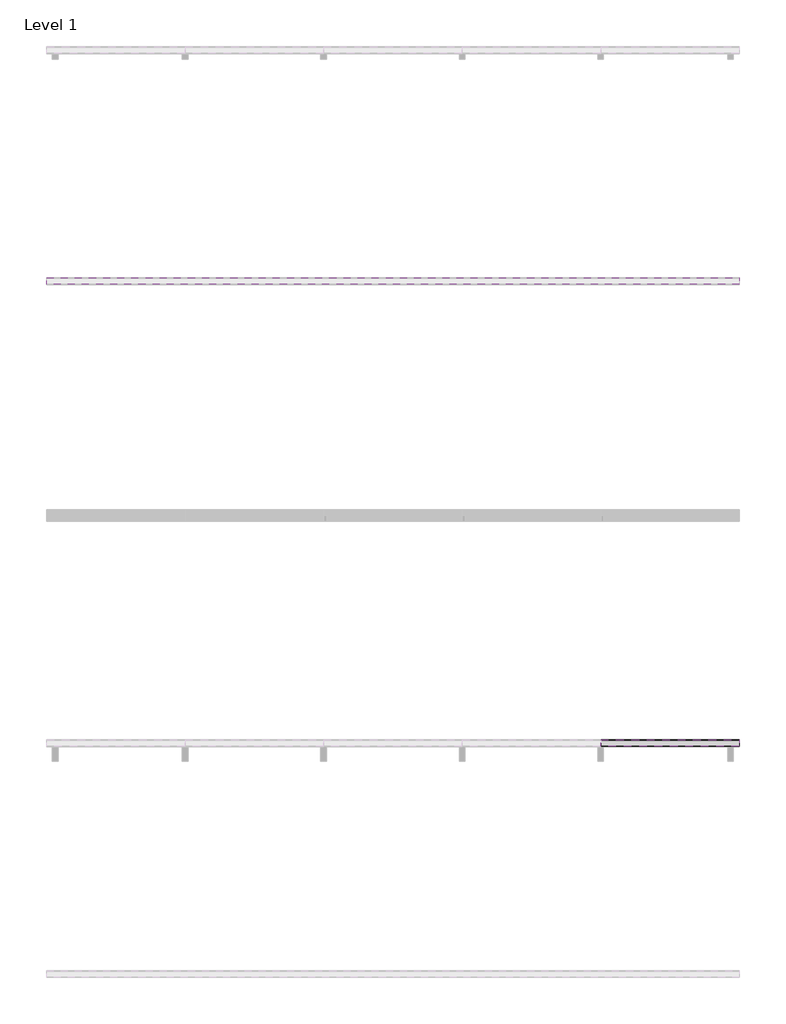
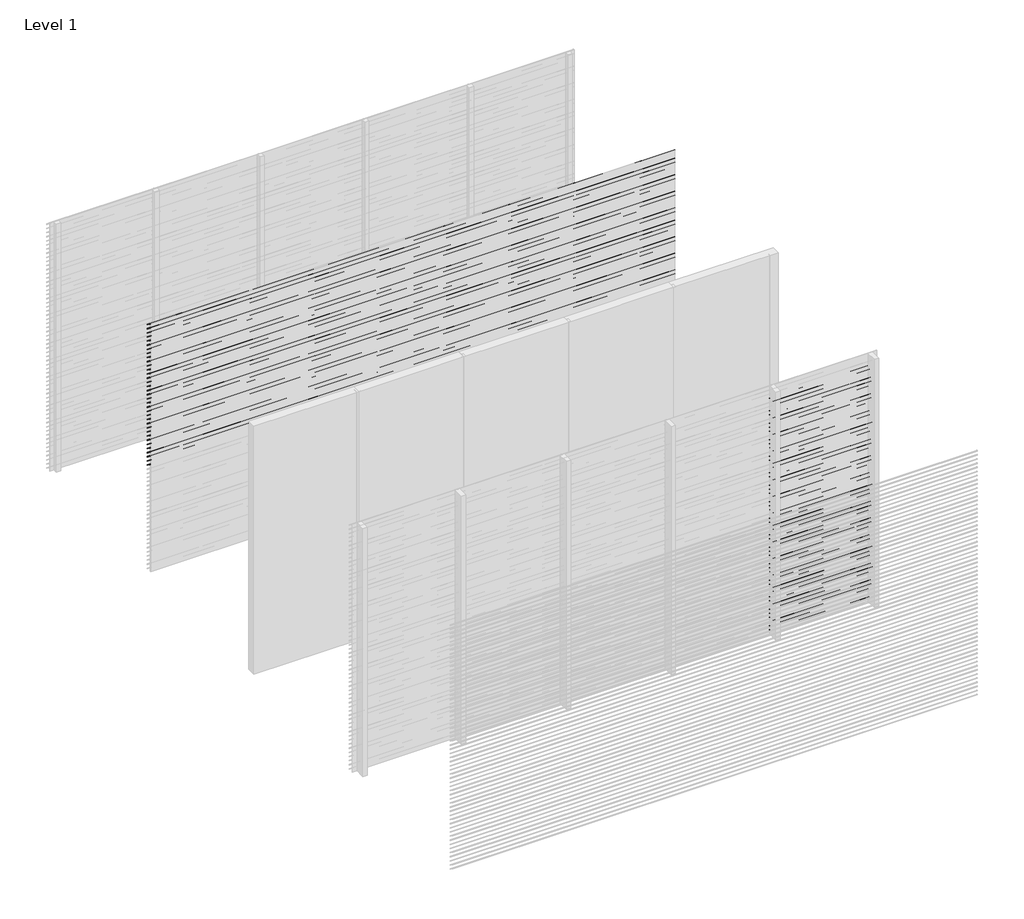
# One storey, part 5 of 16: 92 proxies.
"""IFC4 building model written with IfcOpenShell, lengths in millimetres."""

from ifc_helpers import new_model, si_unit, frame, origin, place, context, project, spatial, polyline, outline, extrude, element, save

model = new_model("IFC4")

# Units and contexts
model_context = context("Model", 3, world=origin())
ifc_project = project(units=[si_unit("LENGTHUNIT", "METRE", prefix="MILLI")], contexts=[model_context])

# Site, building, storey
site = spatial("IfcSite", under=ifc_project)
building = spatial("IfcBuilding", under=site)
storey = spatial("IfcBuildingStorey", under=building, Name="Level 1", Elevation=0.0)

# Proxies
placement = place(None, origin())
element("IfcBuildingElementProxy", 1, Name="Wall Sweeps", at=placement, inside=storey, context=model_context, shape_type="SweptSolid", body=[
    extrude(outline(polyline([(-13995.0, 3000.0), (-13995.0, 2998.0), (-13939.0, 2954.0), (-13939.0, 2946.0), (-13997.0, 2991.5714286), (-13997.0, 3000.0), (-13995.0, 3000.0)])), frame((0.0, 0.0, 0.0), z_axis=(1.0, 0.0, 0.0), x_axis=(0.0, 1.0, 0.0)), (0.0, 0.0, 1.0), 6000.0),
])
element("IfcBuildingElementProxy", 2, Name="Wall Sweeps", at=placement, inside=storey, context=model_context, shape_type="SweptSolid", body=[
    extrude(outline(polyline([(-13995.0, 2950.0), (-13995.0, 2948.0), (-13939.0, 2904.0), (-13939.0, 2896.0), (-13997.0, 2941.5714286), (-13997.0, 2950.0), (-13995.0, 2950.0)])), frame((0.0, 0.0, 0.0), z_axis=(1.0, 0.0, 0.0), x_axis=(0.0, 1.0, 0.0)), (0.0, 0.0, 1.0), 6000.0),
])
element("IfcBuildingElementProxy", 3, Name="Wall Sweeps", at=placement, inside=storey, context=model_context, shape_type="SweptSolid", body=[
    extrude(outline(polyline([(-13995.0, 2900.0), (-13995.0, 2898.0), (-13939.0, 2854.0), (-13939.0, 2846.0), (-13997.0, 2891.5714286), (-13997.0, 2900.0), (-13995.0, 2900.0)])), frame((0.0, 0.0, 0.0), z_axis=(1.0, 0.0, 0.0), x_axis=(0.0, 1.0, 0.0)), (0.0, 0.0, 1.0), 6000.0),
])
element("IfcBuildingElementProxy", 4, Name="Wall Sweeps", at=placement, inside=storey, context=model_context, shape_type="SweptSolid", body=[
    extrude(outline(polyline([(-13995.0, 2850.0), (-13995.0, 2848.0), (-13939.0, 2804.0), (-13939.0, 2796.0), (-13997.0, 2841.5714286), (-13997.0, 2850.0), (-13995.0, 2850.0)])), frame((0.0, 0.0, 0.0), z_axis=(1.0, 0.0, 0.0), x_axis=(0.0, 1.0, 0.0)), (0.0, 0.0, 1.0), 6000.0),
])
element("IfcBuildingElementProxy", 5, Name="Wall Sweeps", at=placement, inside=storey, context=model_context, shape_type="SweptSolid", body=[
    extrude(outline(polyline([(-13995.0, 2800.0), (-13995.0, 2798.0), (-13939.0, 2754.0), (-13939.0, 2746.0), (-13997.0, 2791.5714286), (-13997.0, 2800.0), (-13995.0, 2800.0)])), frame((0.0, 0.0, 0.0), z_axis=(1.0, 0.0, 0.0), x_axis=(0.0, 1.0, 0.0)), (0.0, 0.0, 1.0), 6000.0),
])
element("IfcBuildingElementProxy", 6, Name="Wall Sweeps", at=placement, inside=storey, context=model_context, shape_type="SweptSolid", body=[
    extrude(outline(polyline([(-13995.0, 2750.0), (-13995.0, 2748.0), (-13939.0, 2704.0), (-13939.0, 2696.0), (-13997.0, 2741.5714286), (-13997.0, 2750.0), (-13995.0, 2750.0)])), frame((0.0, 0.0, 0.0), z_axis=(1.0, 0.0, 0.0), x_axis=(0.0, 1.0, 0.0)), (0.0, 0.0, 1.0), 6000.0),
])
element("IfcBuildingElementProxy", 7, Name="Wall Sweeps", at=placement, inside=storey, context=model_context, shape_type="SweptSolid", body=[
    extrude(outline(polyline([(-13995.0, 2700.0), (-13995.0, 2698.0), (-13939.0, 2654.0), (-13939.0, 2646.0), (-13997.0, 2691.5714286), (-13997.0, 2700.0), (-13995.0, 2700.0)])), frame((0.0, 0.0, 0.0), z_axis=(1.0, 0.0, 0.0), x_axis=(0.0, 1.0, 0.0)), (0.0, 0.0, 1.0), 6000.0),
])
element("IfcBuildingElementProxy", 8, Name="Wall Sweeps", at=placement, inside=storey, context=model_context, shape_type="SweptSolid", body=[
    extrude(outline(polyline([(-13995.0, 2650.0), (-13995.0, 2648.0), (-13939.0, 2604.0), (-13939.0, 2596.0), (-13997.0, 2641.5714286), (-13997.0, 2650.0), (-13995.0, 2650.0)])), frame((0.0, 0.0, 0.0), z_axis=(1.0, 0.0, 0.0), x_axis=(0.0, 1.0, 0.0)), (0.0, 0.0, 1.0), 6000.0),
])
element("IfcBuildingElementProxy", 9, Name="Wall Sweeps", at=placement, inside=storey, context=model_context, shape_type="SweptSolid", body=[
    extrude(outline(polyline([(-13995.0, 2600.0), (-13995.0, 2598.0), (-13939.0, 2554.0), (-13939.0, 2546.0), (-13997.0, 2591.5714286), (-13997.0, 2600.0), (-13995.0, 2600.0)])), frame((0.0, 0.0, 0.0), z_axis=(1.0, 0.0, 0.0), x_axis=(0.0, 1.0, 0.0)), (0.0, 0.0, 1.0), 6000.0),
])
element("IfcBuildingElementProxy", 10, Name="Wall Sweeps", at=placement, inside=storey, context=model_context, shape_type="SweptSolid", body=[
    extrude(outline(polyline([(-13995.0, 2550.0), (-13995.0, 2548.0), (-13939.0, 2504.0), (-13939.0, 2496.0), (-13997.0, 2541.5714286), (-13997.0, 2550.0), (-13995.0, 2550.0)])), frame((0.0, 0.0, 0.0), z_axis=(1.0, 0.0, 0.0), x_axis=(0.0, 1.0, 0.0)), (0.0, 0.0, 1.0), 6000.0),
])
element("IfcBuildingElementProxy", 11, Name="Wall Sweeps", at=placement, inside=storey, context=model_context, shape_type="SweptSolid", body=[
    extrude(outline(polyline([(-13995.0, 2500.0), (-13995.0, 2498.0), (-13939.0, 2454.0), (-13939.0, 2446.0), (-13997.0, 2491.5714286), (-13997.0, 2500.0), (-13995.0, 2500.0)])), frame((0.0, 0.0, 0.0), z_axis=(1.0, 0.0, 0.0), x_axis=(0.0, 1.0, 0.0)), (0.0, 0.0, 1.0), 6000.0),
])
element("IfcBuildingElementProxy", 12, Name="Wall Sweeps", at=placement, inside=storey, context=model_context, shape_type="SweptSolid", body=[
    extrude(outline(polyline([(-13995.0, 2450.0), (-13995.0, 2448.0), (-13939.0, 2404.0), (-13939.0, 2396.0), (-13997.0, 2441.5714286), (-13997.0, 2450.0), (-13995.0, 2450.0)])), frame((0.0, 0.0, 0.0), z_axis=(1.0, 0.0, 0.0), x_axis=(0.0, 1.0, 0.0)), (0.0, 0.0, 1.0), 6000.0),
])
element("IfcBuildingElementProxy", 13, Name="Wall Sweeps", at=placement, inside=storey, context=model_context, shape_type="SweptSolid", body=[
    extrude(outline(polyline([(-13995.0, 2400.0), (-13995.0, 2398.0), (-13939.0, 2354.0), (-13939.0, 2346.0), (-13997.0, 2391.5714286), (-13997.0, 2400.0), (-13995.0, 2400.0)])), frame((0.0, 0.0, 0.0), z_axis=(1.0, 0.0, 0.0), x_axis=(0.0, 1.0, 0.0)), (0.0, 0.0, 1.0), 6000.0),
])
element("IfcBuildingElementProxy", 14, Name="Wall Sweeps", at=placement, inside=storey, context=model_context, shape_type="SweptSolid", body=[
    extrude(outline(polyline([(-13995.0, 2350.0), (-13995.0, 2348.0), (-13939.0, 2304.0), (-13939.0, 2296.0), (-13997.0, 2341.5714286), (-13997.0, 2350.0), (-13995.0, 2350.0)])), frame((0.0, 0.0, 0.0), z_axis=(1.0, 0.0, 0.0), x_axis=(0.0, 1.0, 0.0)), (0.0, 0.0, 1.0), 6000.0),
])
element("IfcBuildingElementProxy", 15, Name="Wall Sweeps", at=placement, inside=storey, context=model_context, shape_type="SweptSolid", body=[
    extrude(outline(polyline([(-13995.0, 2300.0), (-13995.0, 2298.0), (-13939.0, 2254.0), (-13939.0, 2246.0), (-13997.0, 2291.5714286), (-13997.0, 2300.0), (-13995.0, 2300.0)])), frame((0.0, 0.0, 0.0), z_axis=(1.0, 0.0, 0.0), x_axis=(0.0, 1.0, 0.0)), (0.0, 0.0, 1.0), 6000.0),
])
element("IfcBuildingElementProxy", 16, Name="Wall Sweeps", at=placement, inside=storey, context=model_context, shape_type="SweptSolid", body=[
    extrude(outline(polyline([(-13995.0, 2250.0), (-13995.0, 2248.0), (-13939.0, 2204.0), (-13939.0, 2196.0), (-13997.0, 2241.5714286), (-13997.0, 2250.0), (-13995.0, 2250.0)])), frame((0.0, 0.0, 0.0), z_axis=(1.0, 0.0, 0.0), x_axis=(0.0, 1.0, 0.0)), (0.0, 0.0, 1.0), 6000.0),
])
element("IfcBuildingElementProxy", 17, Name="Wall Sweeps", at=placement, inside=storey, context=model_context, shape_type="SweptSolid", body=[
    extrude(outline(polyline([(-13995.0, 2200.0), (-13995.0, 2198.0), (-13939.0, 2154.0), (-13939.0, 2146.0), (-13997.0, 2191.5714286), (-13997.0, 2200.0), (-13995.0, 2200.0)])), frame((0.0, 0.0, 0.0), z_axis=(1.0, 0.0, 0.0), x_axis=(0.0, 1.0, 0.0)), (0.0, 0.0, 1.0), 6000.0),
])
element("IfcBuildingElementProxy", 18, Name="Wall Sweeps", at=placement, inside=storey, context=model_context, shape_type="SweptSolid", body=[
    extrude(outline(polyline([(-13995.0, 2150.0), (-13995.0, 2148.0), (-13939.0, 2104.0), (-13939.0, 2096.0), (-13997.0, 2141.5714286), (-13997.0, 2150.0), (-13995.0, 2150.0)])), frame((0.0, 0.0, 0.0), z_axis=(1.0, 0.0, 0.0), x_axis=(0.0, 1.0, 0.0)), (0.0, 0.0, 1.0), 6000.0),
])
element("IfcBuildingElementProxy", 19, Name="Wall Sweeps", at=placement, inside=storey, context=model_context, shape_type="SweptSolid", body=[
    extrude(outline(polyline([(-13995.0, 2100.0), (-13995.0, 2098.0), (-13939.0, 2054.0), (-13939.0, 2046.0), (-13997.0, 2091.5714286), (-13997.0, 2100.0), (-13995.0, 2100.0)])), frame((0.0, 0.0, 0.0), z_axis=(1.0, 0.0, 0.0), x_axis=(0.0, 1.0, 0.0)), (0.0, 0.0, 1.0), 6000.0),
])
element("IfcBuildingElementProxy", 20, Name="Wall Sweeps", at=placement, inside=storey, context=model_context, shape_type="SweptSolid", body=[
    extrude(outline(polyline([(-13995.0, 2050.0), (-13995.0, 2048.0), (-13939.0, 2004.0), (-13939.0, 1996.0), (-13997.0, 2041.5714286), (-13997.0, 2050.0), (-13995.0, 2050.0)])), frame((0.0, 0.0, 0.0), z_axis=(1.0, 0.0, 0.0), x_axis=(0.0, 1.0, 0.0)), (0.0, 0.0, 1.0), 6000.0),
])
element("IfcBuildingElementProxy", 21, Name="Wall Sweeps", at=placement, inside=storey, context=model_context, shape_type="SweptSolid", body=[
    extrude(outline(polyline([(-13995.0, 2000.0), (-13995.0, 1998.0), (-13939.0, 1954.0), (-13939.0, 1946.0), (-13997.0, 1991.5714286), (-13997.0, 2000.0), (-13995.0, 2000.0)])), frame((0.0, 0.0, 0.0), z_axis=(1.0, 0.0, 0.0), x_axis=(0.0, 1.0, 0.0)), (0.0, 0.0, 1.0), 6000.0),
])
element("IfcBuildingElementProxy", 22, Name="Wall Sweeps", at=placement, inside=storey, context=model_context, shape_type="SweptSolid", body=[
    extrude(outline(polyline([(-13995.0, 1950.0), (-13995.0, 1948.0), (-13939.0, 1904.0), (-13939.0, 1896.0), (-13997.0, 1941.5714286), (-13997.0, 1950.0), (-13995.0, 1950.0)])), frame((0.0, 0.0, 0.0), z_axis=(1.0, 0.0, 0.0), x_axis=(0.0, 1.0, 0.0)), (0.0, 0.0, 1.0), 6000.0),
])
element("IfcBuildingElementProxy", 23, Name="Wall Sweeps", at=placement, inside=storey, context=model_context, shape_type="SweptSolid", body=[
    extrude(outline(polyline([(-13995.0, 1900.0), (-13995.0, 1898.0), (-13939.0, 1854.0), (-13939.0, 1846.0), (-13997.0, 1891.5714286), (-13997.0, 1900.0), (-13995.0, 1900.0)])), frame((0.0, 0.0, 0.0), z_axis=(1.0, 0.0, 0.0), x_axis=(0.0, 1.0, 0.0)), (0.0, 0.0, 1.0), 6000.0),
])
element("IfcBuildingElementProxy", 24, Name="Wall Sweeps", at=placement, inside=storey, context=model_context, shape_type="SweptSolid", body=[
    extrude(outline(polyline([(-13995.0, 1850.0), (-13995.0, 1848.0), (-13939.0, 1804.0), (-13939.0, 1796.0), (-13997.0, 1841.5714286), (-13997.0, 1850.0), (-13995.0, 1850.0)])), frame((0.0, 0.0, 0.0), z_axis=(1.0, 0.0, 0.0), x_axis=(0.0, 1.0, 0.0)), (0.0, 0.0, 1.0), 6000.0),
])
element("IfcBuildingElementProxy", 25, Name="Wall Sweeps", at=placement, inside=storey, context=model_context, shape_type="SweptSolid", body=[
    extrude(outline(polyline([(-13995.0, 1800.0), (-13995.0, 1798.0), (-13939.0, 1754.0), (-13939.0, 1746.0), (-13997.0, 1791.5714286), (-13997.0, 1800.0), (-13995.0, 1800.0)])), frame((0.0, 0.0, 0.0), z_axis=(1.0, 0.0, 0.0), x_axis=(0.0, 1.0, 0.0)), (0.0, 0.0, 1.0), 6000.0),
])
element("IfcBuildingElementProxy", 26, Name="Wall Sweeps", at=placement, inside=storey, context=model_context, shape_type="SweptSolid", body=[
    extrude(outline(polyline([(-13995.0, 1750.0), (-13995.0, 1748.0), (-13939.0, 1704.0), (-13939.0, 1696.0), (-13997.0, 1741.5714286), (-13997.0, 1750.0), (-13995.0, 1750.0)])), frame((0.0, 0.0, 0.0), z_axis=(1.0, 0.0, 0.0), x_axis=(0.0, 1.0, 0.0)), (0.0, 0.0, 1.0), 6000.0),
])
element("IfcBuildingElementProxy", 27, Name="Wall Sweeps", at=placement, inside=storey, context=model_context, shape_type="SweptSolid", body=[
    extrude(outline(polyline([(-13995.0, 1700.0), (-13995.0, 1698.0), (-13939.0, 1654.0), (-13939.0, 1646.0), (-13997.0, 1691.5714286), (-13997.0, 1700.0), (-13995.0, 1700.0)])), frame((0.0, 0.0, 0.0), z_axis=(1.0, 0.0, 0.0), x_axis=(0.0, 1.0, 0.0)), (0.0, 0.0, 1.0), 6000.0),
])
element("IfcBuildingElementProxy", 28, Name="Wall Sweeps", at=placement, inside=storey, context=model_context, shape_type="SweptSolid", body=[
    extrude(outline(polyline([(-13995.0, 1650.0), (-13995.0, 1648.0), (-13939.0, 1604.0), (-13939.0, 1596.0), (-13997.0, 1641.5714286), (-13997.0, 1650.0), (-13995.0, 1650.0)])), frame((0.0, 0.0, 0.0), z_axis=(1.0, 0.0, 0.0), x_axis=(0.0, 1.0, 0.0)), (0.0, 0.0, 1.0), 6000.0),
])
element("IfcBuildingElementProxy", 29, Name="Wall Sweeps", at=placement, inside=storey, context=model_context, shape_type="SweptSolid", body=[
    extrude(outline(polyline([(-13995.0, 1600.0), (-13995.0, 1598.0), (-13939.0, 1554.0), (-13939.0, 1546.0), (-13997.0, 1591.5714286), (-13997.0, 1600.0), (-13995.0, 1600.0)])), frame((0.0, 0.0, 0.0), z_axis=(1.0, 0.0, 0.0), x_axis=(0.0, 1.0, 0.0)), (0.0, 0.0, 1.0), 6000.0),
])
element("IfcBuildingElementProxy", 30, Name="Wall Sweeps", at=placement, inside=storey, context=model_context, shape_type="SweptSolid", body=[
    extrude(outline(polyline([(-13995.0, 1550.0), (-13995.0, 1548.0), (-13939.0, 1504.0), (-13939.0, 1496.0), (-13997.0, 1541.5714286), (-13997.0, 1550.0), (-13995.0, 1550.0)])), frame((0.0, 0.0, 0.0), z_axis=(1.0, 0.0, 0.0), x_axis=(0.0, 1.0, 0.0)), (0.0, 0.0, 1.0), 6000.0),
])
element("IfcBuildingElementProxy", 31, Name="Wall Sweeps", at=placement, inside=storey, context=model_context, shape_type="SweptSolid", body=[
    extrude(outline(polyline([(-13995.0, 1500.0), (-13995.0, 1498.0), (-13939.0, 1454.0), (-13939.0, 1446.0), (-13997.0, 1491.5714286), (-13997.0, 1500.0), (-13995.0, 1500.0)])), frame((0.0, 0.0, 0.0), z_axis=(1.0, 0.0, 0.0), x_axis=(0.0, 1.0, 0.0)), (0.0, 0.0, 1.0), 6000.0),
])
element("IfcBuildingElementProxy", 32, Name="Wall Sweeps", at=placement, inside=storey, context=model_context, shape_type="SweptSolid", body=[
    extrude(outline(polyline([(-13995.0, 1450.0), (-13995.0, 1448.0), (-13939.0, 1404.0), (-13939.0, 1396.0), (-13997.0, 1441.5714286), (-13997.0, 1450.0), (-13995.0, 1450.0)])), frame((0.0, 0.0, 0.0), z_axis=(1.0, 0.0, 0.0), x_axis=(0.0, 1.0, 0.0)), (0.0, 0.0, 1.0), 6000.0),
])
element("IfcBuildingElementProxy", 33, Name="Wall Sweeps", at=placement, inside=storey, context=model_context, shape_type="SweptSolid", body=[
    extrude(outline(polyline([(-13995.0, 1400.0), (-13995.0, 1398.0), (-13939.0, 1354.0), (-13939.0, 1346.0), (-13997.0, 1391.5714286), (-13997.0, 1400.0), (-13995.0, 1400.0)])), frame((0.0, 0.0, 0.0), z_axis=(1.0, 0.0, 0.0), x_axis=(0.0, 1.0, 0.0)), (0.0, 0.0, 1.0), 6000.0),
])
element("IfcBuildingElementProxy", 34, Name="Wall Sweeps", at=placement, inside=storey, context=model_context, shape_type="SweptSolid", body=[
    extrude(outline(polyline([(-13995.0, 1350.0), (-13995.0, 1348.0), (-13939.0, 1304.0), (-13939.0, 1296.0), (-13997.0, 1341.5714286), (-13997.0, 1350.0), (-13995.0, 1350.0)])), frame((0.0, 0.0, 0.0), z_axis=(1.0, 0.0, 0.0), x_axis=(0.0, 1.0, 0.0)), (0.0, 0.0, 1.0), 6000.0),
])
element("IfcBuildingElementProxy", 35, Name="Wall Sweeps", at=placement, inside=storey, context=model_context, shape_type="SweptSolid", body=[
    extrude(outline(polyline([(-13995.0, 1300.0), (-13995.0, 1298.0), (-13939.0, 1254.0), (-13939.0, 1246.0), (-13997.0, 1291.5714286), (-13997.0, 1300.0), (-13995.0, 1300.0)])), frame((0.0, 0.0, 0.0), z_axis=(1.0, 0.0, 0.0), x_axis=(0.0, 1.0, 0.0)), (0.0, 0.0, 1.0), 6000.0),
])
element("IfcBuildingElementProxy", 36, Name="Wall Sweeps", at=placement, inside=storey, context=model_context, shape_type="SweptSolid", body=[
    extrude(outline(polyline([(-17995.0, 2850.0), (-17995.0, 2848.0), (-17939.0, 2804.0), (-17939.0, 2796.0), (-17997.0, 2841.5714286), (-17997.0, 2850.0), (-17995.0, 2850.0)])), frame((4799.9999998, 0.0, 0.0), z_axis=(1.0, 0.0, 0.0), x_axis=(0.0, 1.0, 0.0)), (0.0, 0.0, 1.0), 1200.0000002),
])
element("IfcBuildingElementProxy", 37, Name="Wall Sweeps", at=placement, inside=storey, context=model_context, shape_type="SweptSolid", body=[
    extrude(outline(polyline([(-17995.0, 2800.0), (-17995.0, 2798.0), (-17939.0, 2754.0), (-17939.0, 2746.0), (-17997.0, 2791.5714286), (-17997.0, 2800.0), (-17995.0, 2800.0)])), frame((4799.9999998, 0.0, 0.0), z_axis=(1.0, 0.0, 0.0), x_axis=(0.0, 1.0, 0.0)), (0.0, 0.0, 1.0), 1200.0000002),
])
element("IfcBuildingElementProxy", 38, Name="Wall Sweeps", at=placement, inside=storey, context=model_context, shape_type="SweptSolid", body=[
    extrude(outline(polyline([(-17995.0, 2750.0), (-17995.0, 2748.0), (-17939.0, 2704.0), (-17939.0, 2696.0), (-17997.0, 2741.5714286), (-17997.0, 2750.0), (-17995.0, 2750.0)])), frame((4799.9999998, 0.0, 0.0), z_axis=(1.0, 0.0, 0.0), x_axis=(0.0, 1.0, 0.0)), (0.0, 0.0, 1.0), 1200.0000002),
])
element("IfcBuildingElementProxy", 39, Name="Wall Sweeps", at=placement, inside=storey, context=model_context, shape_type="SweptSolid", body=[
    extrude(outline(polyline([(-17995.0, 2700.0), (-17995.0, 2698.0), (-17939.0, 2654.0), (-17939.0, 2646.0), (-17997.0, 2691.5714286), (-17997.0, 2700.0), (-17995.0, 2700.0)])), frame((4799.9999998, 0.0, 0.0), z_axis=(1.0, 0.0, 0.0), x_axis=(0.0, 1.0, 0.0)), (0.0, 0.0, 1.0), 1200.0000002),
])
element("IfcBuildingElementProxy", 40, Name="Wall Sweeps", at=placement, inside=storey, context=model_context, shape_type="SweptSolid", body=[
    extrude(outline(polyline([(-17995.0, 2650.0), (-17995.0, 2648.0), (-17939.0, 2604.0), (-17939.0, 2596.0), (-17997.0, 2641.5714286), (-17997.0, 2650.0), (-17995.0, 2650.0)])), frame((4799.9999998, 0.0, 0.0), z_axis=(1.0, 0.0, 0.0), x_axis=(0.0, 1.0, 0.0)), (0.0, 0.0, 1.0), 1200.0000002),
])
element("IfcBuildingElementProxy", 41, Name="Wall Sweeps", at=placement, inside=storey, context=model_context, shape_type="SweptSolid", body=[
    extrude(outline(polyline([(-17995.0, 2600.0), (-17995.0, 2598.0), (-17939.0, 2554.0), (-17939.0, 2546.0), (-17997.0, 2591.5714286), (-17997.0, 2600.0), (-17995.0, 2600.0)])), frame((4799.9999998, 0.0, 0.0), z_axis=(1.0, 0.0, 0.0), x_axis=(0.0, 1.0, 0.0)), (0.0, 0.0, 1.0), 1200.0000002),
])
element("IfcBuildingElementProxy", 42, Name="Wall Sweeps", at=placement, inside=storey, context=model_context, shape_type="SweptSolid", body=[
    extrude(outline(polyline([(-17995.0, 2550.0), (-17995.0, 2548.0), (-17939.0, 2504.0), (-17939.0, 2496.0), (-17997.0, 2541.5714286), (-17997.0, 2550.0), (-17995.0, 2550.0)])), frame((4799.9999998, 0.0, 0.0), z_axis=(1.0, 0.0, 0.0), x_axis=(0.0, 1.0, 0.0)), (0.0, 0.0, 1.0), 1200.0000002),
])
element("IfcBuildingElementProxy", 43, Name="Wall Sweeps", at=placement, inside=storey, context=model_context, shape_type="SweptSolid", body=[
    extrude(outline(polyline([(-17995.0, 2500.0), (-17995.0, 2498.0), (-17939.0, 2454.0), (-17939.0, 2446.0), (-17997.0, 2491.5714286), (-17997.0, 2500.0), (-17995.0, 2500.0)])), frame((4799.9999998, 0.0, 0.0), z_axis=(1.0, 0.0, 0.0), x_axis=(0.0, 1.0, 0.0)), (0.0, 0.0, 1.0), 1200.0000002),
])
element("IfcBuildingElementProxy", 44, Name="Wall Sweeps", at=placement, inside=storey, context=model_context, shape_type="SweptSolid", body=[
    extrude(outline(polyline([(-17995.0, 2450.0), (-17995.0, 2448.0), (-17939.0, 2404.0), (-17939.0, 2396.0), (-17997.0, 2441.5714286), (-17997.0, 2450.0), (-17995.0, 2450.0)])), frame((4799.9999998, 0.0, 0.0), z_axis=(1.0, 0.0, 0.0), x_axis=(0.0, 1.0, 0.0)), (0.0, 0.0, 1.0), 1200.0000002),
])
element("IfcBuildingElementProxy", 45, Name="Wall Sweeps", at=placement, inside=storey, context=model_context, shape_type="SweptSolid", body=[
    extrude(outline(polyline([(-17995.0, 2400.0), (-17995.0, 2398.0), (-17939.0, 2354.0), (-17939.0, 2346.0), (-17997.0, 2391.5714286), (-17997.0, 2400.0), (-17995.0, 2400.0)])), frame((4799.9999998, 0.0, 0.0), z_axis=(1.0, 0.0, 0.0), x_axis=(0.0, 1.0, 0.0)), (0.0, 0.0, 1.0), 1200.0000002),
])
element("IfcBuildingElementProxy", 46, Name="Wall Sweeps", at=placement, inside=storey, context=model_context, shape_type="SweptSolid", body=[
    extrude(outline(polyline([(-17995.0, 2350.0), (-17995.0, 2348.0), (-17939.0, 2304.0), (-17939.0, 2296.0), (-17997.0, 2341.5714286), (-17997.0, 2350.0), (-17995.0, 2350.0)])), frame((4799.9999998, 0.0, 0.0), z_axis=(1.0, 0.0, 0.0), x_axis=(0.0, 1.0, 0.0)), (0.0, 0.0, 1.0), 1200.0000002),
])
element("IfcBuildingElementProxy", 47, Name="Wall Sweeps", at=placement, inside=storey, context=model_context, shape_type="SweptSolid", body=[
    extrude(outline(polyline([(-17995.0, 2300.0), (-17995.0, 2298.0), (-17939.0, 2254.0), (-17939.0, 2246.0), (-17997.0, 2291.5714286), (-17997.0, 2300.0), (-17995.0, 2300.0)])), frame((4799.9999998, 0.0, 0.0), z_axis=(1.0, 0.0, 0.0), x_axis=(0.0, 1.0, 0.0)), (0.0, 0.0, 1.0), 1200.0000002),
])
element("IfcBuildingElementProxy", 48, Name="Wall Sweeps", at=placement, inside=storey, context=model_context, shape_type="SweptSolid", body=[
    extrude(outline(polyline([(-17995.0, 2250.0), (-17995.0, 2248.0), (-17939.0, 2204.0), (-17939.0, 2196.0), (-17997.0, 2241.5714286), (-17997.0, 2250.0), (-17995.0, 2250.0)])), frame((4799.9999998, 0.0, 0.0), z_axis=(1.0, 0.0, 0.0), x_axis=(0.0, 1.0, 0.0)), (0.0, 0.0, 1.0), 1200.0000002),
])
element("IfcBuildingElementProxy", 49, Name="Wall Sweeps", at=placement, inside=storey, context=model_context, shape_type="SweptSolid", body=[
    extrude(outline(polyline([(-17995.0, 2200.0), (-17995.0, 2198.0), (-17939.0, 2154.0), (-17939.0, 2146.0), (-17997.0, 2191.5714286), (-17997.0, 2200.0), (-17995.0, 2200.0)])), frame((4799.9999998, 0.0, 0.0), z_axis=(1.0, 0.0, 0.0), x_axis=(0.0, 1.0, 0.0)), (0.0, 0.0, 1.0), 1200.0000002),
])
element("IfcBuildingElementProxy", 50, Name="Wall Sweeps", at=placement, inside=storey, context=model_context, shape_type="SweptSolid", body=[
    extrude(outline(polyline([(-17995.0, 2150.0), (-17995.0, 2148.0), (-17939.0, 2104.0), (-17939.0, 2096.0), (-17997.0, 2141.5714286), (-17997.0, 2150.0), (-17995.0, 2150.0)])), frame((4799.9999998, 0.0, 0.0), z_axis=(1.0, 0.0, 0.0), x_axis=(0.0, 1.0, 0.0)), (0.0, 0.0, 1.0), 1200.0000002),
])
element("IfcBuildingElementProxy", 51, Name="Wall Sweeps", at=placement, inside=storey, context=model_context, shape_type="SweptSolid", body=[
    extrude(outline(polyline([(-17995.0, 2100.0), (-17995.0, 2098.0), (-17939.0, 2054.0), (-17939.0, 2046.0), (-17997.0, 2091.5714286), (-17997.0, 2100.0), (-17995.0, 2100.0)])), frame((4799.9999998, 0.0, 0.0), z_axis=(1.0, 0.0, 0.0), x_axis=(0.0, 1.0, 0.0)), (0.0, 0.0, 1.0), 1200.0000002),
])
element("IfcBuildingElementProxy", 52, Name="Wall Sweeps", at=placement, inside=storey, context=model_context, shape_type="SweptSolid", body=[
    extrude(outline(polyline([(-17995.0, 2050.0), (-17995.0, 2048.0), (-17939.0, 2004.0), (-17939.0, 1996.0), (-17997.0, 2041.5714286), (-17997.0, 2050.0), (-17995.0, 2050.0)])), frame((4799.9999998, 0.0, 0.0), z_axis=(1.0, 0.0, 0.0), x_axis=(0.0, 1.0, 0.0)), (0.0, 0.0, 1.0), 1200.0000002),
])
element("IfcBuildingElementProxy", 53, Name="Wall Sweeps", at=placement, inside=storey, context=model_context, shape_type="SweptSolid", body=[
    extrude(outline(polyline([(-17995.0, 2000.0), (-17995.0, 1998.0), (-17939.0, 1954.0), (-17939.0, 1946.0), (-17997.0, 1991.5714286), (-17997.0, 2000.0), (-17995.0, 2000.0)])), frame((4799.9999998, 0.0, 0.0), z_axis=(1.0, 0.0, 0.0), x_axis=(0.0, 1.0, 0.0)), (0.0, 0.0, 1.0), 1200.0000002),
])
element("IfcBuildingElementProxy", 54, Name="Wall Sweeps", at=placement, inside=storey, context=model_context, shape_type="SweptSolid", body=[
    extrude(outline(polyline([(-17995.0, 1950.0), (-17995.0, 1948.0), (-17939.0, 1904.0), (-17939.0, 1896.0), (-17997.0, 1941.5714286), (-17997.0, 1950.0), (-17995.0, 1950.0)])), frame((4799.9999998, 0.0, 0.0), z_axis=(1.0, 0.0, 0.0), x_axis=(0.0, 1.0, 0.0)), (0.0, 0.0, 1.0), 1200.0000002),
])
element("IfcBuildingElementProxy", 55, Name="Wall Sweeps", at=placement, inside=storey, context=model_context, shape_type="SweptSolid", body=[
    extrude(outline(polyline([(-17995.0, 1900.0), (-17995.0, 1898.0), (-17939.0, 1854.0), (-17939.0, 1846.0), (-17997.0, 1891.5714286), (-17997.0, 1900.0), (-17995.0, 1900.0)])), frame((4799.9999998, 0.0, 0.0), z_axis=(1.0, 0.0, 0.0), x_axis=(0.0, 1.0, 0.0)), (0.0, 0.0, 1.0), 1200.0000002),
])
element("IfcBuildingElementProxy", 56, Name="Wall Sweeps", at=placement, inside=storey, context=model_context, shape_type="SweptSolid", body=[
    extrude(outline(polyline([(-17995.0, 1850.0), (-17995.0, 1848.0), (-17939.0, 1804.0), (-17939.0, 1796.0), (-17997.0, 1841.5714286), (-17997.0, 1850.0), (-17995.0, 1850.0)])), frame((4799.9999998, 0.0, 0.0), z_axis=(1.0, 0.0, 0.0), x_axis=(0.0, 1.0, 0.0)), (0.0, 0.0, 1.0), 1200.0000002),
])
element("IfcBuildingElementProxy", 57, Name="Wall Sweeps", at=placement, inside=storey, context=model_context, shape_type="SweptSolid", body=[
    extrude(outline(polyline([(-17995.0, 1800.0), (-17995.0, 1798.0), (-17939.0, 1754.0), (-17939.0, 1746.0), (-17997.0, 1791.5714286), (-17997.0, 1800.0), (-17995.0, 1800.0)])), frame((4799.9999998, 0.0, 0.0), z_axis=(1.0, 0.0, 0.0), x_axis=(0.0, 1.0, 0.0)), (0.0, 0.0, 1.0), 1200.0000002),
])
element("IfcBuildingElementProxy", 58, Name="Wall Sweeps", at=placement, inside=storey, context=model_context, shape_type="SweptSolid", body=[
    extrude(outline(polyline([(-17995.0, 1750.0), (-17995.0, 1748.0), (-17939.0, 1704.0), (-17939.0, 1696.0), (-17997.0, 1741.5714286), (-17997.0, 1750.0), (-17995.0, 1750.0)])), frame((4799.9999998, 0.0, 0.0), z_axis=(1.0, 0.0, 0.0), x_axis=(0.0, 1.0, 0.0)), (0.0, 0.0, 1.0), 1200.0000002),
])
element("IfcBuildingElementProxy", 59, Name="Wall Sweeps", at=placement, inside=storey, context=model_context, shape_type="SweptSolid", body=[
    extrude(outline(polyline([(-17995.0, 1700.0), (-17995.0, 1698.0), (-17939.0, 1654.0), (-17939.0, 1646.0), (-17997.0, 1691.5714286), (-17997.0, 1700.0), (-17995.0, 1700.0)])), frame((4799.9999998, 0.0, 0.0), z_axis=(1.0, 0.0, 0.0), x_axis=(0.0, 1.0, 0.0)), (0.0, 0.0, 1.0), 1200.0000002),
])
element("IfcBuildingElementProxy", 60, Name="Wall Sweeps", at=placement, inside=storey, context=model_context, shape_type="SweptSolid", body=[
    extrude(outline(polyline([(-17995.0, 1650.0), (-17995.0, 1648.0), (-17939.0, 1604.0), (-17939.0, 1596.0), (-17997.0, 1641.5714286), (-17997.0, 1650.0), (-17995.0, 1650.0)])), frame((4799.9999998, 0.0, 0.0), z_axis=(1.0, 0.0, 0.0), x_axis=(0.0, 1.0, 0.0)), (0.0, 0.0, 1.0), 1200.0000002),
])
element("IfcBuildingElementProxy", 61, Name="Wall Sweeps", at=placement, inside=storey, context=model_context, shape_type="SweptSolid", body=[
    extrude(outline(polyline([(-17995.0, 1600.0), (-17995.0, 1598.0), (-17939.0, 1554.0), (-17939.0, 1546.0), (-17997.0, 1591.5714286), (-17997.0, 1600.0), (-17995.0, 1600.0)])), frame((4799.9999998, 0.0, 0.0), z_axis=(1.0, 0.0, 0.0), x_axis=(0.0, 1.0, 0.0)), (0.0, 0.0, 1.0), 1200.0000002),
])
element("IfcBuildingElementProxy", 62, Name="Wall Sweeps", at=placement, inside=storey, context=model_context, shape_type="SweptSolid", body=[
    extrude(outline(polyline([(-17995.0, 1550.0), (-17995.0, 1548.0), (-17939.0, 1504.0), (-17939.0, 1496.0), (-17997.0, 1541.5714286), (-17997.0, 1550.0), (-17995.0, 1550.0)])), frame((4799.9999998, 0.0, 0.0), z_axis=(1.0, 0.0, 0.0), x_axis=(0.0, 1.0, 0.0)), (0.0, 0.0, 1.0), 1200.0000002),
])
element("IfcBuildingElementProxy", 63, Name="Wall Sweeps", at=placement, inside=storey, context=model_context, shape_type="SweptSolid", body=[
    extrude(outline(polyline([(-17995.0, 1500.0), (-17995.0, 1498.0), (-17939.0, 1454.0), (-17939.0, 1446.0), (-17997.0, 1491.5714286), (-17997.0, 1500.0), (-17995.0, 1500.0)])), frame((4799.9999998, 0.0, 0.0), z_axis=(1.0, 0.0, 0.0), x_axis=(0.0, 1.0, 0.0)), (0.0, 0.0, 1.0), 1200.0000002),
])
element("IfcBuildingElementProxy", 64, Name="Wall Sweeps", at=placement, inside=storey, context=model_context, shape_type="SweptSolid", body=[
    extrude(outline(polyline([(-17995.0, 1450.0), (-17995.0, 1448.0), (-17939.0, 1404.0), (-17939.0, 1396.0), (-17997.0, 1441.5714286), (-17997.0, 1450.0), (-17995.0, 1450.0)])), frame((4799.9999998, 0.0, 0.0), z_axis=(1.0, 0.0, 0.0), x_axis=(0.0, 1.0, 0.0)), (0.0, 0.0, 1.0), 1200.0000002),
])
element("IfcBuildingElementProxy", 65, Name="Wall Sweeps", at=placement, inside=storey, context=model_context, shape_type="SweptSolid", body=[
    extrude(outline(polyline([(-17995.0, 1400.0), (-17995.0, 1398.0), (-17939.0, 1354.0), (-17939.0, 1346.0), (-17997.0, 1391.5714286), (-17997.0, 1400.0), (-17995.0, 1400.0)])), frame((4799.9999998, 0.0, 0.0), z_axis=(1.0, 0.0, 0.0), x_axis=(0.0, 1.0, 0.0)), (0.0, 0.0, 1.0), 1200.0000002),
])
element("IfcBuildingElementProxy", 66, Name="Wall Sweeps", at=placement, inside=storey, context=model_context, shape_type="SweptSolid", body=[
    extrude(outline(polyline([(-17995.0, 1350.0), (-17995.0, 1348.0), (-17939.0, 1304.0), (-17939.0, 1296.0), (-17997.0, 1341.5714286), (-17997.0, 1350.0), (-17995.0, 1350.0)])), frame((4799.9999998, 0.0, 0.0), z_axis=(1.0, 0.0, 0.0), x_axis=(0.0, 1.0, 0.0)), (0.0, 0.0, 1.0), 1200.0000002),
])
element("IfcBuildingElementProxy", 67, Name="Wall Sweeps", at=placement, inside=storey, context=model_context, shape_type="SweptSolid", body=[
    extrude(outline(polyline([(-17995.0, 1300.0), (-17995.0, 1298.0), (-17939.0, 1254.0), (-17939.0, 1246.0), (-17997.0, 1291.5714286), (-17997.0, 1300.0), (-17995.0, 1300.0)])), frame((4799.9999998, 0.0, 0.0), z_axis=(1.0, 0.0, 0.0), x_axis=(0.0, 1.0, 0.0)), (0.0, 0.0, 1.0), 1200.0000002),
])
element("IfcBuildingElementProxy", 68, Name="Wall Sweeps", at=placement, inside=storey, context=model_context, shape_type="SweptSolid", body=[
    extrude(outline(polyline([(-17995.0, 1250.0), (-17995.0, 1248.0), (-17939.0, 1204.0), (-17939.0, 1196.0), (-17997.0, 1241.5714286), (-17997.0, 1250.0), (-17995.0, 1250.0)])), frame((4799.9999998, 0.0, 0.0), z_axis=(1.0, 0.0, 0.0), x_axis=(0.0, 1.0, 0.0)), (0.0, 0.0, 1.0), 1200.0000002),
])
element("IfcBuildingElementProxy", 69, Name="Wall Sweeps", at=placement, inside=storey, context=model_context, shape_type="SweptSolid", body=[
    extrude(outline(polyline([(-17995.0, 1200.0), (-17995.0, 1198.0), (-17939.0, 1154.0), (-17939.0, 1146.0), (-17997.0, 1191.5714286), (-17997.0, 1200.0), (-17995.0, 1200.0)])), frame((4799.9999998, 0.0, 0.0), z_axis=(1.0, 0.0, 0.0), x_axis=(0.0, 1.0, 0.0)), (0.0, 0.0, 1.0), 1200.0000002),
])
element("IfcBuildingElementProxy", 70, Name="Wall Sweeps", at=placement, inside=storey, context=model_context, shape_type="SweptSolid", body=[
    extrude(outline(polyline([(-17995.0, 1150.0), (-17995.0, 1148.0), (-17939.0, 1104.0), (-17939.0, 1096.0), (-17997.0, 1141.5714286), (-17997.0, 1150.0), (-17995.0, 1150.0)])), frame((4799.9999998, 0.0, 0.0), z_axis=(1.0, 0.0, 0.0), x_axis=(0.0, 1.0, 0.0)), (0.0, 0.0, 1.0), 1200.0000002),
])
element("IfcBuildingElementProxy", 71, Name="Wall Sweeps", at=placement, inside=storey, context=model_context, shape_type="SweptSolid", body=[
    extrude(outline(polyline([(-17995.0, 1100.0), (-17995.0, 1098.0), (-17939.0, 1054.0), (-17939.0, 1046.0), (-17997.0, 1091.5714286), (-17997.0, 1100.0), (-17995.0, 1100.0)])), frame((4799.9999998, 0.0, 0.0), z_axis=(1.0, 0.0, 0.0), x_axis=(0.0, 1.0, 0.0)), (0.0, 0.0, 1.0), 1200.0000002),
])
element("IfcBuildingElementProxy", 72, Name="Wall Sweeps", at=placement, inside=storey, context=model_context, shape_type="SweptSolid", body=[
    extrude(outline(polyline([(-17995.0, 1050.0), (-17995.0, 1048.0), (-17939.0, 1004.0), (-17939.0, 996.0), (-17997.0, 1041.5714286), (-17997.0, 1050.0), (-17995.0, 1050.0)])), frame((4799.9999998, 0.0, 0.0), z_axis=(1.0, 0.0, 0.0), x_axis=(0.0, 1.0, 0.0)), (0.0, 0.0, 1.0), 1200.0000002),
])
element("IfcBuildingElementProxy", 73, Name="Wall Sweeps", at=placement, inside=storey, context=model_context, shape_type="SweptSolid", body=[
    extrude(outline(polyline([(-17995.0, 1000.0), (-17995.0, 998.0), (-17939.0, 954.0), (-17939.0, 946.0), (-17997.0, 991.5714286), (-17997.0, 1000.0), (-17995.0, 1000.0)])), frame((4799.9999998, 0.0, 0.0), z_axis=(1.0, 0.0, 0.0), x_axis=(0.0, 1.0, 0.0)), (0.0, 0.0, 1.0), 1200.0000002),
])
element("IfcBuildingElementProxy", 74, Name="Wall Sweeps", at=placement, inside=storey, context=model_context, shape_type="SweptSolid", body=[
    extrude(outline(polyline([(-17995.0, 950.0), (-17995.0, 948.0), (-17939.0, 904.0), (-17939.0, 896.0), (-17997.0, 941.5714286), (-17997.0, 950.0), (-17995.0, 950.0)])), frame((4799.9999998, 0.0, 0.0), z_axis=(1.0, 0.0, 0.0), x_axis=(0.0, 1.0, 0.0)), (0.0, 0.0, 1.0), 1200.0000002),
])
element("IfcBuildingElementProxy", 75, Name="Wall Sweeps", at=placement, inside=storey, context=model_context, shape_type="SweptSolid", body=[
    extrude(outline(polyline([(-17995.0, 900.0), (-17995.0, 898.0), (-17939.0, 854.0), (-17939.0, 846.0), (-17997.0, 891.5714286), (-17997.0, 900.0), (-17995.0, 900.0)])), frame((4799.9999998, 0.0, 0.0), z_axis=(1.0, 0.0, 0.0), x_axis=(0.0, 1.0, 0.0)), (0.0, 0.0, 1.0), 1200.0000002),
])
element("IfcBuildingElementProxy", 76, Name="Wall Sweeps", at=placement, inside=storey, context=model_context, shape_type="SweptSolid", body=[
    extrude(outline(polyline([(-17995.0, 850.0), (-17995.0, 848.0), (-17939.0, 804.0), (-17939.0, 796.0), (-17997.0, 841.5714286), (-17997.0, 850.0), (-17995.0, 850.0)])), frame((4799.9999998, 0.0, 0.0), z_axis=(1.0, 0.0, 0.0), x_axis=(0.0, 1.0, 0.0)), (0.0, 0.0, 1.0), 1200.0000002),
])
element("IfcBuildingElementProxy", 77, Name="Wall Sweeps", at=placement, inside=storey, context=model_context, shape_type="SweptSolid", body=[
    extrude(outline(polyline([(-17995.0, 800.0), (-17995.0, 798.0), (-17939.0, 754.0), (-17939.0, 746.0), (-17997.0, 791.5714286), (-17997.0, 800.0), (-17995.0, 800.0)])), frame((4799.9999998, 0.0, 0.0), z_axis=(1.0, 0.0, 0.0), x_axis=(0.0, 1.0, 0.0)), (0.0, 0.0, 1.0), 1200.0000002),
])
element("IfcBuildingElementProxy", 78, Name="Wall Sweeps", at=placement, inside=storey, context=model_context, shape_type="SweptSolid", body=[
    extrude(outline(polyline([(-17995.0, 750.0), (-17995.0, 748.0), (-17939.0, 704.0), (-17939.0, 696.0), (-17997.0, 741.5714286), (-17997.0, 750.0), (-17995.0, 750.0)])), frame((4799.9999998, 0.0, 0.0), z_axis=(1.0, 0.0, 0.0), x_axis=(0.0, 1.0, 0.0)), (0.0, 0.0, 1.0), 1200.0000002),
])
element("IfcBuildingElementProxy", 79, Name="Wall Sweeps", at=placement, inside=storey, context=model_context, shape_type="SweptSolid", body=[
    extrude(outline(polyline([(-17995.0, 700.0), (-17995.0, 698.0), (-17939.0, 654.0), (-17939.0, 646.0), (-17997.0, 691.5714286), (-17997.0, 700.0), (-17995.0, 700.0)])), frame((4799.9999998, 0.0, 0.0), z_axis=(1.0, 0.0, 0.0), x_axis=(0.0, 1.0, 0.0)), (0.0, 0.0, 1.0), 1200.0000002),
])
element("IfcBuildingElementProxy", 80, Name="Wall Sweeps", at=placement, inside=storey, context=model_context, shape_type="SweptSolid", body=[
    extrude(outline(polyline([(-17995.0, 650.0), (-17995.0, 648.0), (-17939.0, 604.0), (-17939.0, 596.0), (-17997.0, 641.5714286), (-17997.0, 650.0), (-17995.0, 650.0)])), frame((4799.9999998, 0.0, 0.0), z_axis=(1.0, 0.0, 0.0), x_axis=(0.0, 1.0, 0.0)), (0.0, 0.0, 1.0), 1200.0000002),
])
element("IfcBuildingElementProxy", 81, Name="Wall Sweeps", at=placement, inside=storey, context=model_context, shape_type="SweptSolid", body=[
    extrude(outline(polyline([(-17995.0, 600.0), (-17995.0, 598.0), (-17939.0, 554.0), (-17939.0, 546.0), (-17997.0, 591.5714286), (-17997.0, 600.0), (-17995.0, 600.0)])), frame((4799.9999998, 0.0, 0.0), z_axis=(1.0, 0.0, 0.0), x_axis=(0.0, 1.0, 0.0)), (0.0, 0.0, 1.0), 1200.0000002),
])
element("IfcBuildingElementProxy", 82, Name="Wall Sweeps", at=placement, inside=storey, context=model_context, shape_type="SweptSolid", body=[
    extrude(outline(polyline([(-17995.0, 550.0), (-17995.0, 548.0), (-17939.0, 504.0), (-17939.0, 496.0), (-17997.0, 541.5714286), (-17997.0, 550.0), (-17995.0, 550.0)])), frame((4799.9999998, 0.0, 0.0), z_axis=(1.0, 0.0, 0.0), x_axis=(0.0, 1.0, 0.0)), (0.0, 0.0, 1.0), 1200.0000002),
])
element("IfcBuildingElementProxy", 83, Name="Wall Sweeps", at=placement, inside=storey, context=model_context, shape_type="SweptSolid", body=[
    extrude(outline(polyline([(-17995.0, 500.0), (-17995.0, 498.0), (-17939.0, 454.0), (-17939.0, 446.0), (-17997.0, 491.5714286), (-17997.0, 500.0), (-17995.0, 500.0)])), frame((4799.9999998, 0.0, 0.0), z_axis=(1.0, 0.0, 0.0), x_axis=(0.0, 1.0, 0.0)), (0.0, 0.0, 1.0), 1200.0000002),
])
element("IfcBuildingElementProxy", 84, Name="Wall Sweeps", at=placement, inside=storey, context=model_context, shape_type="SweptSolid", body=[
    extrude(outline(polyline([(-17995.0, 450.0), (-17995.0, 448.0), (-17939.0, 404.0), (-17939.0, 396.0), (-17997.0, 441.5714286), (-17997.0, 450.0), (-17995.0, 450.0)])), frame((4799.9999998, 0.0, 0.0), z_axis=(1.0, 0.0, 0.0), x_axis=(0.0, 1.0, 0.0)), (0.0, 0.0, 1.0), 1200.0000002),
])
element("IfcBuildingElementProxy", 85, Name="Wall Sweeps", at=placement, inside=storey, context=model_context, shape_type="SweptSolid", body=[
    extrude(outline(polyline([(-17995.0, 400.0), (-17995.0, 398.0), (-17939.0, 354.0), (-17939.0, 346.0), (-17997.0, 391.5714286), (-17997.0, 400.0), (-17995.0, 400.0)])), frame((4799.9999998, 0.0, 0.0), z_axis=(1.0, 0.0, 0.0), x_axis=(0.0, 1.0, 0.0)), (0.0, 0.0, 1.0), 1200.0000002),
])
element("IfcBuildingElementProxy", 86, Name="Wall Sweeps", at=placement, inside=storey, context=model_context, shape_type="SweptSolid", body=[
    extrude(outline(polyline([(-17995.0, 350.0), (-17995.0, 348.0), (-17939.0, 304.0), (-17939.0, 296.0), (-17997.0, 341.5714286), (-17997.0, 350.0), (-17995.0, 350.0)])), frame((4799.9999998, 0.0, 0.0), z_axis=(1.0, 0.0, 0.0), x_axis=(0.0, 1.0, 0.0)), (0.0, 0.0, 1.0), 1200.0000002),
])
element("IfcBuildingElementProxy", 87, Name="Wall Sweeps", at=placement, inside=storey, context=model_context, shape_type="SweptSolid", body=[
    extrude(outline(polyline([(-17995.0, 300.0), (-17995.0, 298.0), (-17939.0, 254.0), (-17939.0, 246.0), (-17997.0, 291.5714286), (-17997.0, 300.0), (-17995.0, 300.0)])), frame((4799.9999998, 0.0, 0.0), z_axis=(1.0, 0.0, 0.0), x_axis=(0.0, 1.0, 0.0)), (0.0, 0.0, 1.0), 1200.0000002),
])
element("IfcBuildingElementProxy", 88, Name="Wall Sweeps", at=placement, inside=storey, context=model_context, shape_type="SweptSolid", body=[
    extrude(outline(polyline([(-17995.0, 250.0), (-17995.0, 248.0), (-17939.0, 204.0), (-17939.0, 196.0), (-17997.0, 241.5714286), (-17997.0, 250.0), (-17995.0, 250.0)])), frame((4799.9999998, 0.0, 0.0), z_axis=(1.0, 0.0, 0.0), x_axis=(0.0, 1.0, 0.0)), (0.0, 0.0, 1.0), 1200.0000002),
])
element("IfcBuildingElementProxy", 89, Name="Wall Sweeps", at=placement, inside=storey, context=model_context, shape_type="SweptSolid", body=[
    extrude(outline(polyline([(-17995.0, 200.0), (-17995.0, 198.0), (-17939.0, 154.0), (-17939.0, 146.0), (-17997.0, 191.5714286), (-17997.0, 200.0), (-17995.0, 200.0)])), frame((4799.9999998, 0.0, 0.0), z_axis=(1.0, 0.0, 0.0), x_axis=(0.0, 1.0, 0.0)), (0.0, 0.0, 1.0), 1200.0000002),
])
element("IfcBuildingElementProxy", 90, Name="Wall Sweeps", at=placement, inside=storey, context=model_context, shape_type="SweptSolid", body=[
    extrude(outline(polyline([(-17995.0, 150.0), (-17995.0, 148.0), (-17939.0, 104.0), (-17939.0, 96.0), (-17997.0, 141.5714286), (-17997.0, 150.0), (-17995.0, 150.0)])), frame((4799.9999998, 0.0, 0.0), z_axis=(1.0, 0.0, 0.0), x_axis=(0.0, 1.0, 0.0)), (0.0, 0.0, 1.0), 1200.0000002),
])
element("IfcBuildingElementProxy", 91, Name="Wall Sweeps", at=placement, inside=storey, context=model_context, shape_type="SweptSolid", body=[
    extrude(outline(polyline([(-17995.0, 100.0), (-17995.0, 98.0), (-17939.0, 54.0), (-17939.0, 46.0), (-17997.0, 91.5714286), (-17997.0, 100.0), (-17995.0, 100.0)])), frame((4799.9999998, 0.0, 0.0), z_axis=(1.0, 0.0, 0.0), x_axis=(0.0, 1.0, 0.0)), (0.0, 0.0, 1.0), 1200.0000002),
])
element("IfcBuildingElementProxy", 92, Name="Wall Sweeps", at=placement, inside=storey, context=model_context, shape_type="SweptSolid", body=[
    extrude(outline(polyline([(-17995.0, 50.0), (-17995.0, 48.0), (-17939.0, 4.0), (-17939.0, -4.0), (-17997.0, 41.5714286), (-17997.0, 50.0), (-17995.0, 50.0)])), frame((4799.9999998, 0.0, 0.0), z_axis=(1.0, 0.0, 0.0), x_axis=(0.0, 1.0, 0.0)), (0.0, 0.0, 1.0), 1200.0000002),
])

save(model, "model.ifc")
